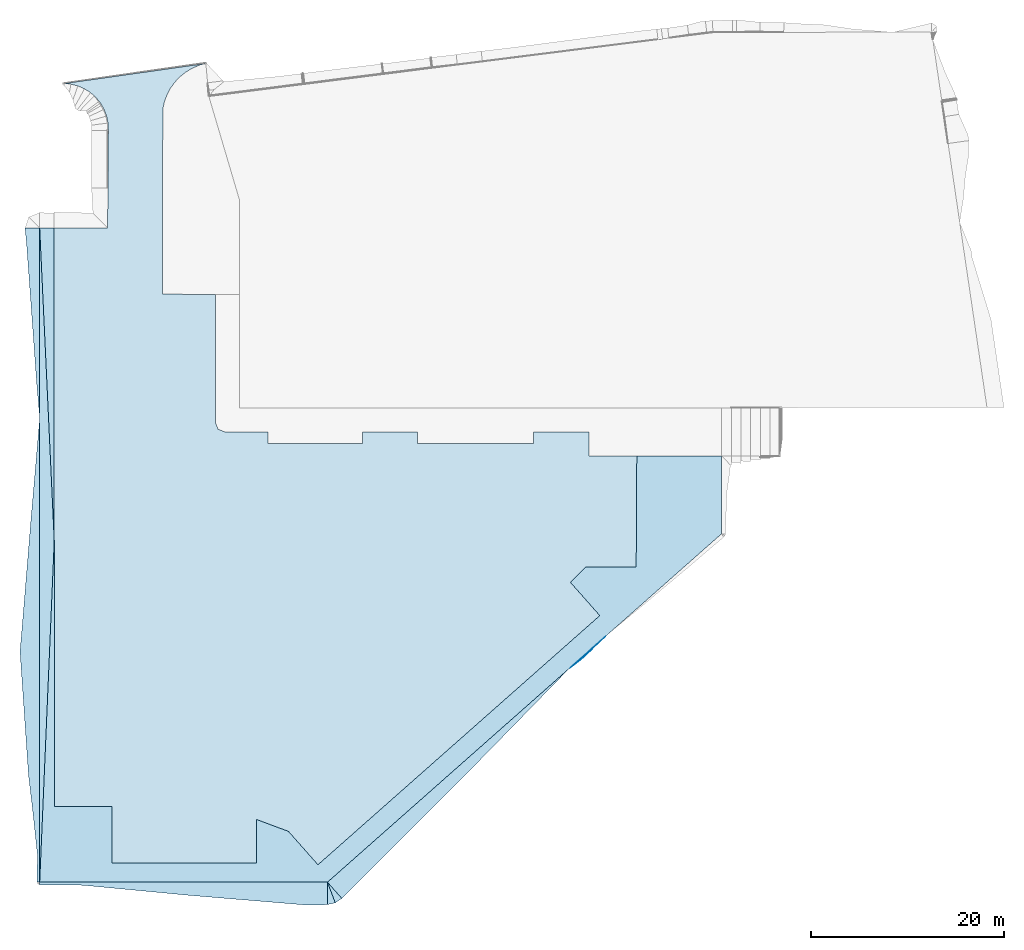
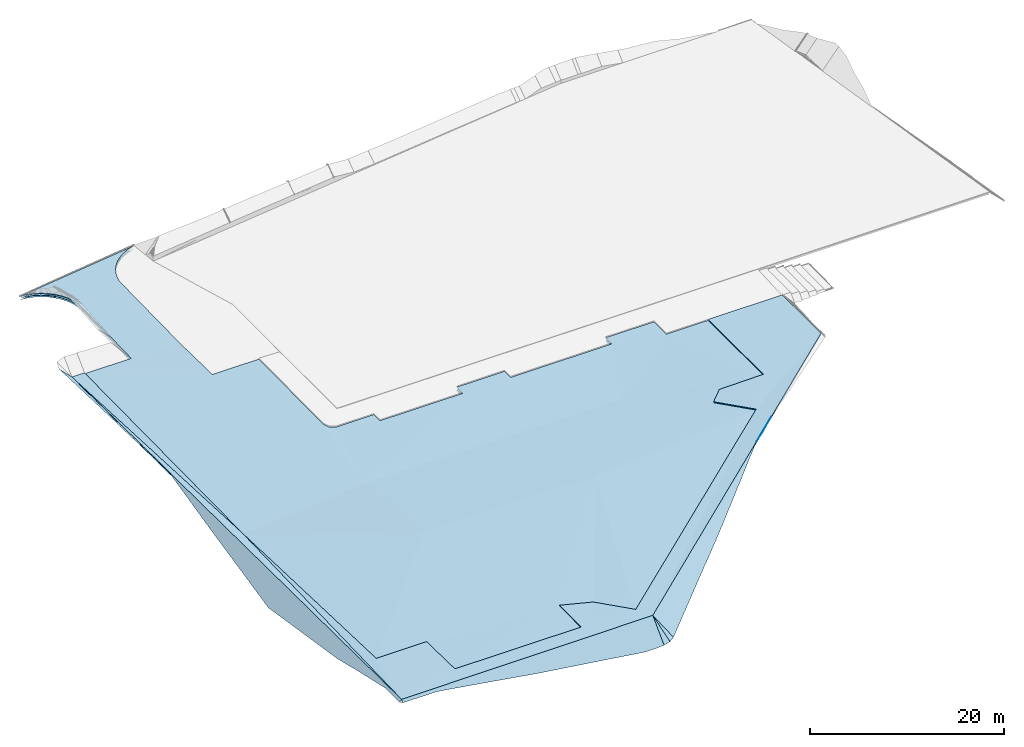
# One storey, part 1 of 14: 12 slabs.
"""IFC2X3 building model written with IfcOpenShell, lengths in metres."""

from ifc_helpers import new_model, si_unit, origin, origin_with_axes, place, context, subcontext, project, spatial, faceted_brep, element, save


model = new_model("IFC2X3")

# Units and contexts
context_of_model = context(None, 3, world=origin_with_axes())
sub_context = subcontext(context_of_model, None, None, "MODEL_VIEW")
ifc_project = project(units=[si_unit("LENGTHUNIT", "METRE"), si_unit("AREAUNIT", "SQUARE_METRE"), si_unit("VOLUMEUNIT", "CUBIC_METRE"), si_unit("PLANEANGLEUNIT", "RADIAN"), si_unit("MASSUNIT", "GRAM", prefix="KILO")])

# Site, building, storey
site_placement = place(None, origin_with_axes())
site = spatial("IfcSite", under=ifc_project, at=site_placement, Name="Site.1", CompositionType="ELEMENT")
building_placement = place(site_placement, origin())
building = spatial("IfcBuilding", under=site, at=building_placement, Name="Building.1", CompositionType="ELEMENT")
storey_placement = place(building_placement, origin())
storey = spatial("IfcBuildingStorey", under=building, at=storey_placement, Name="VRD", CompositionType="ELEMENT")

# Slabs
slab_1_placement = place(storey_placement, origin())
element("IfcSlab", 1, at=slab_1_placement, inside=storey, Name="PJ FINI n°4 (Terre Végétale)", PredefinedType="USERDEFINED", context=sub_context, shape_type="Brep", body=[
    faceted_brep([(6.009514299, -51.825937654, 0.62), (-23.824534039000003, -51.825937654, 0.52), (-16.334534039, -49.825937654, 0.52), (6.009514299, -51.825937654, 0.42), (-23.824534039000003, -51.825937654, 0.32), (-16.334534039, -49.825937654, 0.32), (-22.314534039, -43.995937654, 0.4), (-22.314534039, -43.995937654, 0.2), (-22.314534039, -16.435937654, -0.58), (-22.314534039, -16.435937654, -0.78), (-16.334534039, -43.995937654, 0.4), (-16.334534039, -43.995937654, 0.2), (-23.824534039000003, 16.004062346, -0.13), (-23.824534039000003, 16.004062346, -0.33), (-1.334534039, -45.325937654, 0.52), (1.965465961, -46.555937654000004, 0.52), (-1.334534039, -49.825937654, 0.52), (-1.334534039, -45.325937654, 0.32), (1.965465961, -46.555937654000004, 0.32), (-1.334534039, -49.825937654, 0.32), (5.025465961, -50.015937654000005, 0.62), (5.025465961, -50.015937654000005, 0.42), (-22.324534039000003, 16.004062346, -0.13), (-22.324534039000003, 16.004062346, -0.33), (32.776124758, -19.145097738, -0.200026), (34.245465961, -24.185937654, -0.13), (31.185465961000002, -20.725937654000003, -0.23), (32.776124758, -19.145097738, -0.400026), (34.245465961, -24.185937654, -0.33), (31.185465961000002, -20.725937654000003, -0.43), (38.015401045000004, -19.145097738, -0.13), (38.015401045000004, -19.145097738, -0.33), (38.079742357, -7.649449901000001, -0.23), (46.836556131, -15.736177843, -0.13), (38.079742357, -7.649449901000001, -0.43), (46.836556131, -15.736177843, -0.33), (46.881781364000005, -7.655936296, -0.23), (46.881781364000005, -7.655936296, -0.43)], [[[0, 1, 2]], [[3, 4, 5]], [[2, 1, 6]], [[5, 4, 7]], [[6, 1, 8]], [[7, 4, 9]], [[2, 6, 10]], [[5, 7, 11]], [[12, 13, 4, 1]], [[1, 12, 8]], [[4, 13, 9]], [[14, 15, 16]], [[17, 18, 19]], [[20, 16, 15]], [[21, 19, 18]], [[16, 20, 0]], [[19, 21, 3]], [[0, 2, 16]], [[3, 5, 19]], [[22, 8, 12]], [[23, 9, 13]], [[24, 25, 26]], [[27, 28, 29]], [[30, 25, 24]], [[31, 28, 27]], [[32, 33, 30]], [[34, 35, 31]], [[0, 20, 25]], [[3, 21, 28]], [[33, 32, 36]], [[35, 34, 37]], [[30, 33, 25]], [[31, 35, 28]], [[0, 3, 35, 33]], [[33, 0, 25]], [[35, 3, 28]]], orient=[[True], [False], [True], [False], [True], [False], [True], [False], [True], [True], [False], [True], [False], [True], [False], [True], [False], [True], [False], [True], [False], [True], [False], [True], [False], [True], [False], [True], [False], [True], [False], [True], [False], [True], [True], [False]]),
])
slab_2_placement = place(storey_placement, origin())
element("IfcSlab", 2, at=slab_2_placement, inside=storey, Name="PJ FINI n°4", PredefinedType="USERDEFINED", context=sub_context, shape_type="Brep", body=[
    faceted_brep([(6.009514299, -51.825937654, 0.62), (-23.824534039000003, -51.825937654, 0.52), (-16.334534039, -49.825937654, 0.52), (-22.314534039, -43.995937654, 0.4), (-22.314534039, -16.435937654, -0.58), (-16.334534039, -43.995937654, 0.4), (-23.824534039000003, 16.004062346, -0.13), (-1.334534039, -45.325937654, 0.52), (1.965465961, -46.555937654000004, 0.52), (-1.334534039, -49.825937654, 0.52), (5.025465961, -50.015937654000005, 0.62), (-22.324534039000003, 16.004062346, -0.13), (32.776124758, -19.145097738, -0.200026), (34.245465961, -24.185937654, -0.13), (31.185465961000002, -20.725937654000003, -0.23), (38.015401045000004, -19.145097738, -0.13), (38.079742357, -7.649449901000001, -0.23), (46.836556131, -15.736177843, -0.13), (46.881781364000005, -7.655936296, -0.23)], [[[0, 1, 2]], [[2, 1, 3]], [[3, 1, 4]], [[2, 3, 5]], [[1, 6, 4]], [[7, 8, 9]], [[10, 9, 8]], [[9, 10, 0]], [[0, 2, 9]], [[11, 4, 6]], [[12, 13, 14]], [[15, 13, 12]], [[16, 17, 15]], [[0, 10, 13]], [[17, 16, 18]], [[15, 17, 13]], [[17, 0, 13]]]),
])
slab_3_placement = place(storey_placement, origin())
element("IfcSlab", 3, at=slab_3_placement, inside=storey, Name="PJ FINI n°2 (Enrobés)", PredefinedType="USERDEFINED", context=sub_context, shape_type="Brep", body=[
    faceted_brep([(-6.758434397, -26.892042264, 0.562221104), (-22.314534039, -43.995937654, 0.28), (-22.314534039, -16.435937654, -0.7), (-6.758434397, -26.892042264, 0.502221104), (-22.314534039, -43.995937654, 0.22), (-22.314534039, -16.435937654, -0.76), (-5.615808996, -4.155500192, -0.2), (-5.323119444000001, -4.863253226, -0.25), (-6.946675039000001, -15.037949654, -0.545686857), (-5.615808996, -4.155500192, -0.26), (-5.323119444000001, -4.863253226, -0.31), (-6.946675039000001, -15.037949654, -0.605686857), (23.557774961, -14.875221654, -0.8), (31.185465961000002, -20.725937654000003, -0.35), (13.467860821, -27.187748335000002, 0.5), (23.557774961, -14.875221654, -0.86), (31.185465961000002, -20.725937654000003, -0.41), (13.467860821, -27.187748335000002, 0.44), (34.245465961, -24.185937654, -0.25), (34.245465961, -24.185937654, -0.31), (-1.334534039, -45.325937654, 0.5), (-16.334534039, -49.825937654, 0.4), (-16.334534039, -43.995937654, 0.28), (-1.334534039, -45.325937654, 0.44), (-16.334534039, -49.825937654, 0.34), (-16.334534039, -43.995937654, 0.22), (-11.097854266, 9.133948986, -0.1), (-11.097854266, 9.133948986, -0.16), (9.665465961, -6.364934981, -0.35), (-0.158671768, -6.355126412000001, -0.35), (9.665465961, -6.364934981, -0.41), (-0.158671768, -6.355126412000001, -0.41), (-4.615534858, -5.156349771, -0.3), (-4.615534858, -5.156349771, -0.36), (15.362768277, -6.350865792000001, -0.35), (15.362768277, -6.350865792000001, -0.41), (-5.572275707, 9.122153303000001, -0.1), (-5.572275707, 9.122153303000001, -0.16), (-1.334534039, -49.825937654, 0.4), (-1.334534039, -49.825937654, 0.34), (27.362441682, -6.347571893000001, -0.35), (33.119516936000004, -7.645794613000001, -0.35), (27.362441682, -6.347571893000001, -0.41), (33.119516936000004, -7.645794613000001, -0.41), (-0.159001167, -5.155126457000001, -0.3), (-0.159001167, -5.155126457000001, -0.36), (9.665133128, -5.152429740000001, -0.3), (15.362438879, -5.150865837, -0.3), (9.665133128, -5.152429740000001, -0.36), (15.362438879, -5.150865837, -0.36), (1.965465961, -46.555937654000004, 0.4), (1.965465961, -46.555937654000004, 0.34), (-22.324534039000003, 16.004062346, -0.25), (-16.781392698, 15.983917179, -0.25), (-22.324534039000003, 16.004062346, -0.31), (-16.781392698, 15.983917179, -0.31), (-11.059491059, 28.315552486, -0.05), (-16.892353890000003, 27.606789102, -0.03), (-17.155672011, 28.304106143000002, -0.02), (-11.059491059, 28.315552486, -0.11), (-16.892353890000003, 27.606789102, -0.09), (-17.155672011, 28.304106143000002, -0.08), (-16.743708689, 26.876383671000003, -0.04), (-16.743708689, 26.876383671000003, -0.1), (-10.895627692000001, 29.066939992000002, -0.046471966), (-17.526911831, 28.950456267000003, -0.01), (-10.895627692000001, 29.066939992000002, -0.106471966), (-17.526911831, 28.950456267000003, -0.07), (-21.329879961, 30.971171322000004, 0.05), (-7.339867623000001, 32.846172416, -0.021775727), (-20.587365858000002, 30.905900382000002, 0.04), (-21.329879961, 30.971171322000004, -0.01), (-7.339867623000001, 32.846172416, -0.081775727), (-20.587365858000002, 30.905900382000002, -0.02), (-18.552560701, 30.025700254, 0.01), (-19.180673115, 30.427025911, 0.02), (-9.299906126, 31.655909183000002, -0.03235983), (-18.552560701, 30.025700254, -0.05), (-19.180673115, 30.427025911, -0.04), (-9.299906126, 31.655909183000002, -0.09235983), (-19.864788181, 30.722955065, 0.03), (-8.04496591, 32.539136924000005, -0.025303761), (-19.864788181, 30.722955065, -0.03), (-8.04496591, 32.539136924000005, -0.085303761), (-8.702302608, 32.139959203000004, -0.028831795), (-8.702302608, 32.139959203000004, -0.088831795), (-17.996555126, 29.529267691, 0.0), (-10.632085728, 29.789421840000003, -0.042943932), (-17.996555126, 29.529267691, -0.06), (-10.632085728, 29.789421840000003, -0.102943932), (-16.713547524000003, 26.131616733, -0.05), (-16.713547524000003, 26.131616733, -0.11), (-11.084177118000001, 15.972522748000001, -0.25), (-11.084177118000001, 15.972522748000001, -0.31), (-10.273664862, 30.469839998, -0.039415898), (-10.273664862, 30.469839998, -0.099415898), (-9.826892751, 31.095802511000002, -0.035887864), (-9.826892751, 31.095802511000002, -0.095887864), (-6.599849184, 33.055473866, -0.018247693), (-6.599849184, 33.055473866, -0.078247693), (5.025465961, -50.015937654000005, 0.5), (5.025465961, -50.015937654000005, 0.44), (32.776124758, -19.145097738, -0.320026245), (32.776124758, -19.145097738, -0.380026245), (38.015401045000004, -19.145097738, -0.25), (38.015401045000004, -19.145097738, -0.31), (38.079742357, -7.649449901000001, -0.35), (38.079742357, -7.649449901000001, -0.41), (33.118830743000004, -5.145991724, -0.3), (27.362112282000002, -5.147571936, -0.3), (33.118830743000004, -5.145991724, -0.36), (27.362112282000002, -5.147571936, -0.36)], [[[0, 1, 2]], [[3, 4, 5]], [[6, 7, 8]], [[9, 10, 11]], [[12, 13, 14]], [[15, 16, 17]], [[18, 14, 13]], [[19, 17, 16]], [[20, 21, 22]], [[23, 24, 25]], [[26, 6, 2]], [[27, 9, 5]], [[28, 8, 29]], [[30, 11, 31]], [[8, 32, 29]], [[11, 33, 31]], [[34, 12, 28]], [[35, 15, 30]], [[12, 8, 28]], [[15, 11, 30]], [[1, 0, 22]], [[4, 3, 25]], [[6, 26, 36]], [[9, 27, 37]], [[22, 0, 20]], [[25, 3, 23]], [[21, 20, 38]], [[24, 23, 39]], [[40, 41, 12]], [[42, 43, 15]], [[0, 2, 8]], [[3, 5, 11]], [[14, 20, 0]], [[17, 23, 3]], [[8, 12, 14]], [[11, 15, 17]], [[29, 32, 44]], [[31, 33, 45]], [[46, 47, 34]], [[48, 49, 35]], [[40, 12, 34]], [[42, 15, 35]], [[34, 28, 46]], [[35, 30, 48]], [[14, 50, 20]], [[17, 51, 23]], [[8, 14, 0]], [[11, 17, 3]], [[26, 52, 53]], [[27, 54, 55]], [[56, 57, 58]], [[59, 60, 61]], [[57, 56, 62]], [[60, 59, 63]], [[64, 58, 65]], [[66, 61, 67]], [[68, 69, 70]], [[71, 72, 73]], [[74, 75, 76]], [[77, 78, 79]], [[80, 70, 81]], [[82, 73, 83]], [[84, 75, 80]], [[85, 78, 82]], [[86, 87, 65]], [[88, 89, 67]], [[90, 91, 55, 53]], [[53, 90, 92]], [[55, 91, 93]], [[26, 53, 92]], [[27, 55, 93]], [[56, 58, 64]], [[59, 61, 66]], [[65, 87, 64]], [[67, 89, 66]], [[87, 86, 94]], [[89, 88, 95]], [[96, 74, 76]], [[97, 77, 79]], [[96, 94, 74]], [[97, 95, 77]], [[80, 81, 84]], [[82, 83, 85]], [[68, 98, 69]], [[71, 99, 72]], [[70, 69, 81]], [[73, 72, 83]], [[76, 75, 84]], [[79, 78, 85]], [[62, 56, 90]], [[63, 59, 91]], [[52, 26, 2]], [[54, 27, 5]], [[32, 8, 7]], [[33, 11, 10]], [[50, 14, 100]], [[51, 17, 101]], [[6, 8, 2]], [[9, 11, 5]], [[102, 13, 12]], [[103, 16, 15]], [[12, 104, 102]], [[15, 105, 103]], [[104, 41, 106]], [[105, 43, 107]], [[108, 40, 109]], [[110, 42, 111]], [[40, 108, 41]], [[42, 110, 43]], [[104, 12, 41]], [[105, 15, 43]], [[100, 14, 18]], [[101, 17, 19]], [[56, 92, 90]], [[59, 93, 91]], [[74, 77, 88, 86]], [[86, 74, 94]], [[88, 77, 95]]], orient=[[True], [False], [True], [False], [True], [False], [True], [False], [True], [False], [True], [False], [True], [False], [True], [False], [True], [False], [True], [False], [True], [False], [True], [False], [True], [False], [True], [False], [True], [False], [True], [False], [True], [False], [True], [False], [True], [False], [True], [False], [True], [False], [True], [False], [True], [False], [True], [False], [True], [False], [True], [False], [True], [False], [True], [False], [True], [False], [True], [False], [True], [False], [True], [False], [True], [False], [True], [True], [False], [True], [False], [True], [False], [True], [False], [True], [False], [True], [False], [True], [False], [True], [False], [True], [False], [True], [False], [True], [False], [True], [False], [True], [False], [True], [False], [True], [False], [True], [False], [True], [False], [True], [False], [True], [False], [True], [False], [True], [False], [True], [False], [True], [False], [True], [False], [True], [True], [False]]),
])
slab_4_placement = place(storey_placement, origin())
element("IfcSlab", 4, at=slab_4_placement, inside=storey, Name="PJ FINI n°2 (GB 0/14)", PredefinedType="USERDEFINED", context=sub_context, shape_type="Brep", body=[
    faceted_brep([(-6.758434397, -26.892042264, 0.502221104), (-22.314534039, -43.995937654, 0.22), (-22.314534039, -16.435937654, -0.76), (-6.758434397, -26.892042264, 0.302221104), (-22.314534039, -43.995937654, 0.02), (-22.314534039, -16.435937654, -0.96), (-5.615808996, -4.155500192, -0.26), (-5.323119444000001, -4.863253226, -0.31), (-6.946675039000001, -15.037949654, -0.605686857), (-5.615808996, -4.155500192, -0.46), (-5.323119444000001, -4.863253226, -0.51), (-6.946675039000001, -15.037949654, -0.805686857), (23.557774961, -14.875221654, -0.86), (31.185465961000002, -20.725937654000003, -0.41), (13.467860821, -27.187748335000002, 0.44), (23.557774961, -14.875221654, -1.06), (31.185465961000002, -20.725937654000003, -0.61), (13.467860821, -27.187748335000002, 0.24), (34.245465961, -24.185937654, -0.31), (34.245465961, -24.185937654, -0.51), (-1.334534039, -45.325937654, 0.44), (-16.334534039, -49.825937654, 0.34), (-16.334534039, -43.995937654, 0.22), (-1.334534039, -45.325937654, 0.24), (-16.334534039, -49.825937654, 0.14), (-16.334534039, -43.995937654, 0.02), (-11.097854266, 9.133948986, -0.16), (-11.097854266, 9.133948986, -0.36), (9.665465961, -6.364934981, -0.41), (-0.158671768, -6.355126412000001, -0.41), (9.665465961, -6.364934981, -0.61), (-0.158671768, -6.355126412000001, -0.61), (-4.615534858, -5.156349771, -0.36), (-4.615534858, -5.156349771, -0.56), (15.362768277, -6.350865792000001, -0.41), (15.362768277, -6.350865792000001, -0.61), (-5.572275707, 9.122153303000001, -0.16), (-5.572275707, 9.122153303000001, -0.36), (-1.334534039, -49.825937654, 0.34), (-1.334534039, -49.825937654, 0.14), (27.362441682, -6.347571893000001, -0.41), (33.119516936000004, -7.645794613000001, -0.41), (27.362441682, -6.347571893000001, -0.61), (33.119516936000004, -7.645794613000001, -0.61), (-0.159001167, -5.155126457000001, -0.36), (-0.159001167, -5.155126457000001, -0.56), (9.665133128, -5.152429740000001, -0.36), (15.362438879, -5.150865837, -0.36), (9.665133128, -5.152429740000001, -0.56), (15.362438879, -5.150865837, -0.56), (1.965465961, -46.555937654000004, 0.34), (1.965465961, -46.555937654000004, 0.14), (-22.324534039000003, 16.004062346, -0.31), (-16.781392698, 15.983917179, -0.31), (-22.324534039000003, 16.004062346, -0.51), (-16.781392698, 15.983917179, -0.51), (-11.059491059, 28.315552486, -0.11), (-16.892353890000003, 27.606789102, -0.09), (-17.155672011, 28.304106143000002, -0.08), (-11.059491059, 28.315552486, -0.31), (-16.892353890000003, 27.606789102, -0.29), (-17.155672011, 28.304106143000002, -0.28), (-16.743708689, 26.876383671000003, -0.1), (-16.743708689, 26.876383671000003, -0.3), (-10.895627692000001, 29.066939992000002, -0.106471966), (-17.526911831, 28.950456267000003, -0.07), (-10.895627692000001, 29.066939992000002, -0.306471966), (-17.526911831, 28.950456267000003, -0.27), (-21.329879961, 30.971171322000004, -0.01), (-7.339867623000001, 32.846172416, -0.081775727), (-20.587365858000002, 30.905900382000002, -0.02), (-21.329879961, 30.971171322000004, -0.21), (-7.339867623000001, 32.846172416, -0.281775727), (-20.587365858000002, 30.905900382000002, -0.22), (-18.552560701, 30.025700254, -0.05), (-19.180673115, 30.427025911, -0.04), (-9.299906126, 31.655909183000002, -0.09235983), (-18.552560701, 30.025700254, -0.25), (-19.180673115, 30.427025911, -0.24), (-9.299906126, 31.655909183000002, -0.29235983), (-19.864788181, 30.722955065, -0.03), (-8.04496591, 32.539136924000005, -0.085303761), (-19.864788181, 30.722955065, -0.23), (-8.04496591, 32.539136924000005, -0.285303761), (-8.702302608, 32.139959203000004, -0.088831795), (-8.702302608, 32.139959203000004, -0.288831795), (-17.996555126, 29.529267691, -0.06), (-10.632085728, 29.789421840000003, -0.102943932), (-17.996555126, 29.529267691, -0.26), (-10.632085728, 29.789421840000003, -0.302943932), (-16.713547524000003, 26.131616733, -0.11), (-16.713547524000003, 26.131616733, -0.31), (-11.084177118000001, 15.972522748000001, -0.31), (-11.084177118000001, 15.972522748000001, -0.51), (-10.273664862, 30.469839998, -0.099415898), (-10.273664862, 30.469839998, -0.299415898), (-9.826892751, 31.095802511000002, -0.095887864), (-9.826892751, 31.095802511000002, -0.295887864), (-6.599849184, 33.055473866, -0.078247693), (-6.599849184, 33.055473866, -0.278247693), (5.025465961, -50.015937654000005, 0.44), (5.025465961, -50.015937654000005, 0.24), (32.776124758, -19.145097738, -0.380026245), (32.776124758, -19.145097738, -0.580026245), (38.015401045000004, -19.145097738, -0.31), (38.015401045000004, -19.145097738, -0.51), (38.079742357, -7.649449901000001, -0.41), (38.079742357, -7.649449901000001, -0.61), (33.118830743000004, -5.145991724, -0.36), (27.362112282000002, -5.147571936, -0.36), (33.118830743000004, -5.145991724, -0.56), (27.362112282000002, -5.147571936, -0.56)], [[[0, 1, 2]], [[3, 4, 5]], [[6, 7, 8]], [[9, 10, 11]], [[12, 13, 14]], [[15, 16, 17]], [[18, 14, 13]], [[19, 17, 16]], [[20, 21, 22]], [[23, 24, 25]], [[26, 6, 2]], [[27, 9, 5]], [[28, 8, 29]], [[30, 11, 31]], [[8, 32, 29]], [[11, 33, 31]], [[34, 12, 28]], [[35, 15, 30]], [[12, 8, 28]], [[15, 11, 30]], [[1, 0, 22]], [[4, 3, 25]], [[6, 26, 36]], [[9, 27, 37]], [[22, 0, 20]], [[25, 3, 23]], [[21, 20, 38]], [[24, 23, 39]], [[40, 41, 12]], [[42, 43, 15]], [[0, 2, 8]], [[3, 5, 11]], [[14, 20, 0]], [[17, 23, 3]], [[8, 12, 14]], [[11, 15, 17]], [[29, 32, 44]], [[31, 33, 45]], [[46, 47, 34]], [[48, 49, 35]], [[40, 12, 34]], [[42, 15, 35]], [[34, 28, 46]], [[35, 30, 48]], [[14, 50, 20]], [[17, 51, 23]], [[8, 14, 0]], [[11, 17, 3]], [[26, 52, 53]], [[27, 54, 55]], [[56, 57, 58]], [[59, 60, 61]], [[57, 56, 62]], [[60, 59, 63]], [[64, 58, 65]], [[66, 61, 67]], [[68, 69, 70]], [[71, 72, 73]], [[74, 75, 76]], [[77, 78, 79]], [[80, 70, 81]], [[82, 73, 83]], [[84, 75, 80]], [[85, 78, 82]], [[86, 87, 65]], [[88, 89, 67]], [[90, 91, 55, 53]], [[53, 90, 92]], [[55, 91, 93]], [[26, 53, 92]], [[27, 55, 93]], [[56, 58, 64]], [[59, 61, 66]], [[65, 87, 64]], [[67, 89, 66]], [[87, 86, 94]], [[89, 88, 95]], [[96, 74, 76]], [[97, 77, 79]], [[96, 94, 74]], [[97, 95, 77]], [[80, 81, 84]], [[82, 83, 85]], [[68, 98, 69]], [[71, 99, 72]], [[70, 69, 81]], [[73, 72, 83]], [[76, 75, 84]], [[79, 78, 85]], [[62, 56, 90]], [[63, 59, 91]], [[52, 26, 2]], [[54, 27, 5]], [[32, 8, 7]], [[33, 11, 10]], [[50, 14, 100]], [[51, 17, 101]], [[6, 8, 2]], [[9, 11, 5]], [[102, 13, 12]], [[103, 16, 15]], [[12, 104, 102]], [[15, 105, 103]], [[104, 41, 106]], [[105, 43, 107]], [[108, 40, 109]], [[110, 42, 111]], [[40, 108, 41]], [[42, 110, 43]], [[104, 12, 41]], [[105, 15, 43]], [[100, 14, 18]], [[101, 17, 19]], [[56, 92, 90]], [[59, 93, 91]], [[74, 77, 88, 86]], [[86, 74, 94]], [[88, 77, 95]]], orient=[[True], [False], [True], [False], [True], [False], [True], [False], [True], [False], [True], [False], [True], [False], [True], [False], [True], [False], [True], [False], [True], [False], [True], [False], [True], [False], [True], [False], [True], [False], [True], [False], [True], [False], [True], [False], [True], [False], [True], [False], [True], [False], [True], [False], [True], [False], [True], [False], [True], [False], [True], [False], [True], [False], [True], [False], [True], [False], [True], [False], [True], [False], [True], [False], [True], [False], [True], [True], [False], [True], [False], [True], [False], [True], [False], [True], [False], [True], [False], [True], [False], [True], [False], [True], [False], [True], [False], [True], [False], [True], [False], [True], [False], [True], [False], [True], [False], [True], [False], [True], [False], [True], [False], [True], [False], [True], [False], [True], [False], [True], [False], [True], [False], [True], [False], [True], [True], [False]]),
])
slab_5_placement = place(storey_placement, origin())
element("IfcSlab", 5, at=slab_5_placement, inside=storey, Name="PJ FINI n°2 (GNT 0/31.5)", PredefinedType="USERDEFINED", context=sub_context, shape_type="Brep", body=[
    faceted_brep([(-6.758434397, -26.892042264, 0.302221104), (-22.314534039, -43.995937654, 0.02), (-22.314534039, -16.435937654, -0.96), (-6.758434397, -26.892042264, 0.102221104), (-22.314534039, -43.995937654, -0.18), (-22.314534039, -16.435937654, -1.16), (-5.615808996, -4.155500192, -0.46), (-5.323119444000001, -4.863253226, -0.51), (-6.946675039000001, -15.037949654, -0.805686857), (-5.615808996, -4.155500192, -0.66), (-5.323119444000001, -4.863253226, -0.71), (-6.946675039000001, -15.037949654, -1.005686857), (23.557774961, -14.875221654, -1.06), (31.185465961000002, -20.725937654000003, -0.61), (13.467860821, -27.187748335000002, 0.24), (23.557774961, -14.875221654, -1.26), (31.185465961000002, -20.725937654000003, -0.81), (13.467860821, -27.187748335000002, 0.04), (34.245465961, -24.185937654, -0.51), (34.245465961, -24.185937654, -0.71), (-1.334534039, -45.325937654, 0.24), (-16.334534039, -49.825937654, 0.14), (-16.334534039, -43.995937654, 0.02), (-1.334534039, -45.325937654, 0.04), (-16.334534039, -49.825937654, -0.06), (-16.334534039, -43.995937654, -0.18), (-11.097854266, 9.133948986, -0.36), (-11.097854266, 9.133948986, -0.56), (9.665465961, -6.364934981, -0.61), (-0.158671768, -6.355126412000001, -0.61), (9.665465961, -6.364934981, -0.81), (-0.158671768, -6.355126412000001, -0.81), (-4.615534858, -5.156349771, -0.56), (-4.615534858, -5.156349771, -0.76), (15.362768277, -6.350865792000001, -0.61), (15.362768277, -6.350865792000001, -0.81), (-5.572275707, 9.122153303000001, -0.36), (-5.572275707, 9.122153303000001, -0.56), (-1.334534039, -49.825937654, 0.14), (-1.334534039, -49.825937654, -0.06), (27.362441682, -6.347571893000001, -0.61), (33.119516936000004, -7.645794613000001, -0.61), (27.362441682, -6.347571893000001, -0.81), (33.119516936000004, -7.645794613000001, -0.81), (-0.159001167, -5.155126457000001, -0.56), (-0.159001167, -5.155126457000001, -0.76), (9.665133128, -5.152429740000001, -0.56), (15.362438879, -5.150865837, -0.56), (9.665133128, -5.152429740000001, -0.76), (15.362438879, -5.150865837, -0.76), (1.965465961, -46.555937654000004, 0.14), (1.965465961, -46.555937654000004, -0.06), (-22.324534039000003, 16.004062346, -0.51), (-16.781392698, 15.983917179, -0.51), (-22.324534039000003, 16.004062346, -0.71), (-16.781392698, 15.983917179, -0.71), (-11.059491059, 28.315552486, -0.31), (-16.892353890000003, 27.606789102, -0.29), (-17.155672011, 28.304106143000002, -0.28), (-11.059491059, 28.315552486, -0.51), (-16.892353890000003, 27.606789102, -0.49), (-17.155672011, 28.304106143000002, -0.48), (-16.743708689, 26.876383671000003, -0.3), (-16.743708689, 26.876383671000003, -0.5), (-10.895627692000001, 29.066939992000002, -0.306471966), (-17.526911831, 28.950456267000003, -0.27), (-10.895627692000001, 29.066939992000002, -0.506471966), (-17.526911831, 28.950456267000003, -0.47), (-21.329879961, 30.971171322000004, -0.21), (-7.339867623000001, 32.846172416, -0.281775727), (-20.587365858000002, 30.905900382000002, -0.22), (-21.329879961, 30.971171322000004, -0.41), (-7.339867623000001, 32.846172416, -0.481775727), (-20.587365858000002, 30.905900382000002, -0.42), (-18.552560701, 30.025700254, -0.25), (-19.180673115, 30.427025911, -0.24), (-9.299906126, 31.655909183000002, -0.29235983), (-18.552560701, 30.025700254, -0.45), (-19.180673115, 30.427025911, -0.44), (-9.299906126, 31.655909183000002, -0.49235983), (-19.864788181, 30.722955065, -0.23), (-8.04496591, 32.539136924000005, -0.285303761), (-19.864788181, 30.722955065, -0.43), (-8.04496591, 32.539136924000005, -0.485303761), (-8.702302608, 32.139959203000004, -0.288831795), (-8.702302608, 32.139959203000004, -0.488831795), (-17.996555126, 29.529267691, -0.26), (-10.632085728, 29.789421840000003, -0.302943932), (-17.996555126, 29.529267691, -0.46), (-10.632085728, 29.789421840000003, -0.502943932), (-16.713547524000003, 26.131616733, -0.31), (-16.713547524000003, 26.131616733, -0.51), (-11.084177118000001, 15.972522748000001, -0.51), (-11.084177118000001, 15.972522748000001, -0.71), (-10.273664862, 30.469839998, -0.299415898), (-10.273664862, 30.469839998, -0.499415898), (-9.826892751, 31.095802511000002, -0.295887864), (-9.826892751, 31.095802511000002, -0.495887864), (-6.599849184, 33.055473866, -0.278247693), (-6.599849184, 33.055473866, -0.478247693), (5.025465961, -50.015937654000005, 0.24), (5.025465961, -50.015937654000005, 0.04), (32.776124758, -19.145097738, -0.580026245), (32.776124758, -19.145097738, -0.780026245), (38.015401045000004, -19.145097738, -0.51), (38.015401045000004, -19.145097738, -0.71), (38.079742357, -7.649449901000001, -0.61), (38.079742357, -7.649449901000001, -0.81), (33.118830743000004, -5.145991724, -0.56), (27.362112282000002, -5.147571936, -0.56), (33.118830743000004, -5.145991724, -0.76), (27.362112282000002, -5.147571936, -0.76)], [[[0, 1, 2]], [[3, 4, 5]], [[6, 7, 8]], [[9, 10, 11]], [[12, 13, 14]], [[15, 16, 17]], [[18, 14, 13]], [[19, 17, 16]], [[20, 21, 22]], [[23, 24, 25]], [[26, 6, 2]], [[27, 9, 5]], [[28, 8, 29]], [[30, 11, 31]], [[8, 32, 29]], [[11, 33, 31]], [[34, 12, 28]], [[35, 15, 30]], [[12, 8, 28]], [[15, 11, 30]], [[1, 0, 22]], [[4, 3, 25]], [[6, 26, 36]], [[9, 27, 37]], [[22, 0, 20]], [[25, 3, 23]], [[21, 20, 38]], [[24, 23, 39]], [[40, 41, 12]], [[42, 43, 15]], [[0, 2, 8]], [[3, 5, 11]], [[14, 20, 0]], [[17, 23, 3]], [[8, 12, 14]], [[11, 15, 17]], [[29, 32, 44]], [[31, 33, 45]], [[46, 47, 34]], [[48, 49, 35]], [[40, 12, 34]], [[42, 15, 35]], [[34, 28, 46]], [[35, 30, 48]], [[14, 50, 20]], [[17, 51, 23]], [[8, 14, 0]], [[11, 17, 3]], [[26, 52, 53]], [[27, 54, 55]], [[56, 57, 58]], [[59, 60, 61]], [[57, 56, 62]], [[60, 59, 63]], [[64, 58, 65]], [[66, 61, 67]], [[68, 69, 70]], [[71, 72, 73]], [[74, 75, 76]], [[77, 78, 79]], [[80, 70, 81]], [[82, 73, 83]], [[84, 75, 80]], [[85, 78, 82]], [[86, 87, 65]], [[88, 89, 67]], [[90, 91, 55, 53]], [[53, 90, 92]], [[55, 91, 93]], [[26, 53, 92]], [[27, 55, 93]], [[56, 58, 64]], [[59, 61, 66]], [[65, 87, 64]], [[67, 89, 66]], [[87, 86, 94]], [[89, 88, 95]], [[96, 74, 76]], [[97, 77, 79]], [[96, 94, 74]], [[97, 95, 77]], [[80, 81, 84]], [[82, 83, 85]], [[68, 98, 69]], [[71, 99, 72]], [[70, 69, 81]], [[73, 72, 83]], [[76, 75, 84]], [[79, 78, 85]], [[62, 56, 90]], [[63, 59, 91]], [[52, 26, 2]], [[54, 27, 5]], [[32, 8, 7]], [[33, 11, 10]], [[50, 14, 100]], [[51, 17, 101]], [[6, 8, 2]], [[9, 11, 5]], [[102, 13, 12]], [[103, 16, 15]], [[12, 104, 102]], [[15, 105, 103]], [[104, 41, 106]], [[105, 43, 107]], [[108, 40, 109]], [[110, 42, 111]], [[40, 108, 41]], [[42, 110, 43]], [[104, 12, 41]], [[105, 15, 43]], [[100, 14, 18]], [[101, 17, 19]], [[56, 92, 90]], [[59, 93, 91]], [[74, 77, 88, 86]], [[86, 74, 94]], [[88, 77, 95]]], orient=[[True], [False], [True], [False], [True], [False], [True], [False], [True], [False], [True], [False], [True], [False], [True], [False], [True], [False], [True], [False], [True], [False], [True], [False], [True], [False], [True], [False], [True], [False], [True], [False], [True], [False], [True], [False], [True], [False], [True], [False], [True], [False], [True], [False], [True], [False], [True], [False], [True], [False], [True], [False], [True], [False], [True], [False], [True], [False], [True], [False], [True], [False], [True], [False], [True], [False], [True], [True], [False], [True], [False], [True], [False], [True], [False], [True], [False], [True], [False], [True], [False], [True], [False], [True], [False], [True], [False], [True], [False], [True], [False], [True], [False], [True], [False], [True], [False], [True], [False], [True], [False], [True], [False], [True], [False], [True], [False], [True], [False], [True], [False], [True], [False], [True], [False], [True], [True], [False]]),
])
slab_6_placement = place(storey_placement, origin())
element("IfcSlab", 6, at=slab_6_placement, inside=storey, Name="PJ FINI n°31", PredefinedType="USERDEFINED", context=sub_context, shape_type="Brep", body=[
    faceted_brep([(-19.932856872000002, -52.108981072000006, 0.25), (-21.067233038, -52.10517878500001, 0.25), (-23.824534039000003, -51.825937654, 0.519999), (-12.129683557, -52.825975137, -0.440838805), (-18.908003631, -52.18513896, 0.177277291), (6.009514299, -51.825937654, 0.619999), (-22.585226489, -52.100090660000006, 0.25), (3.723483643, -54.18827416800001, -1.75), (-7.760709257, -53.23573793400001, -0.835957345), (-8.422886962, -53.181332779, -0.783771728), (6.009514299, -54.152039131, -1.706102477), (4.912038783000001, -54.192258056, -1.75), (-8.816458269, -53.14624185, -0.75), (-23.824534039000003, -52.095936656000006, 0.25)], [[[0, 1, 2]], [[3, 4, 5]], [[1, 6, 2]], [[7, 8, 5]], [[5, 0, 2]], [[5, 8, 9]], [[5, 10, 11]], [[12, 5, 9]], [[7, 5, 11]], [[12, 3, 5]], [[5, 4, 0]], [[6, 13, 2]]]),
])
slab_7_placement = place(storey_placement, origin())
element("IfcSlab", 7, at=slab_7_placement, inside=storey, Name="PJ FINI n°36", PredefinedType="USERDEFINED", context=sub_context, shape_type="Brep", body=[
    faceted_brep([(-23.824534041, -3.701037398, 0.058828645), (-24.067036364, -48.95655405, 0.25), (-24.213911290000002, -8.239944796, -0.287053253), (-24.734340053, -14.238414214, -0.75), (-24.094533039, -51.825937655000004, 0.25), (-23.824534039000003, -51.825937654, 0.519999), (-24.562558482, -44.29720325, -0.290171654), (-25.469064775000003, -23.21868573, -1.398668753), (-24.988093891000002, -40.718603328, -0.75), (-25.585438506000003, -31.990994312, -1.430979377), (-25.865393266, -27.914321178, -1.75)], [[[0, 1, 2]], [[1, 3, 2]], [[4, 1, 5]], [[6, 7, 3]], [[7, 8, 9]], [[1, 6, 3]], [[1, 0, 5]], [[8, 7, 6]], [[10, 7, 9]]]),
])
slab_8_placement = place(storey_placement, origin())
element("IfcSlab", 8, at=slab_8_placement, inside=storey, Name="PJ FINI n°51", PredefinedType="USERDEFINED", context=sub_context, shape_type="Brep", body=[
    faceted_brep([(6.009514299, -51.825937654, 0.619999), (15.724356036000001, -45.277917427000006, -1.068002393), (7.499256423, -53.51122912, -1.629342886), (31.12831732, -29.621743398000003, 0.158561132), (25.099183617, -35.807946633, -0.364706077), (20.547591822, -40.464958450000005, -0.75), (17.704369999, -43.315510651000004, -0.947366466)], [[[0, 1, 2]], [[0, 3, 4]], [[0, 5, 6]], [[0, 6, 1]], [[0, 4, 5]]]),
])
slab_9_placement = place(storey_placement, origin())
element("IfcSlab", 9, at=slab_9_placement, inside=storey, Name="PJ FINI n°56", PredefinedType="USERDEFINED", context=sub_context, shape_type="Brep", body=[
    faceted_brep([(6.009514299, -51.825937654, 0.619999), (6.820074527, -53.966749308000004, -1.669123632), (6.009514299, -54.152039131, -1.706102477)], [[[0, 1, 2]]]),
])
slab_10_placement = place(storey_placement, origin())
element("IfcSlab", 10, at=slab_10_placement, inside=storey, Name="PJ FINI n°60", PredefinedType="USERDEFINED", context=sub_context, shape_type="Brep", body=[
    faceted_brep([(-23.824534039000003, 16.004062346, -0.130001), (-24.039010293, -1.269081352, 0.25), (-24.152621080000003, 0.057504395, 0.350898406), (-23.824534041, -3.701037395, 0.058829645), (-24.437670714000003, 4.05180543, 0.59767153), (-25.189047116, 14.387838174, 1.25), (-25.345557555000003, 16.004062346, 1.391022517)], [[[0, 1, 2]], [[0, 3, 1]], [[0, 2, 4]], [[0, 5, 6]], [[5, 0, 4]]]),
])
slab_11_placement = place(storey_placement, origin())
element("IfcSlab", 11, at=slab_11_placement, inside=storey, Name="PJ FINI n°82", PredefinedType="USERDEFINED", context=sub_context, shape_type="Brep", body=[
    faceted_brep([(34.866858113, -26.316996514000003, 0.089885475), (32.313893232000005, -28.723026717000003, 0.25), (31.128327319, -29.621734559, 0.158561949)], [[[0, 1, 2]]]),
])
slab_12_placement = place(storey_placement, origin())
element("IfcSlab", 12, at=slab_12_placement, inside=storey, Name="PJ FINI n°96", PredefinedType="USERDEFINED", context=sub_context, shape_type="Brep", body=[
    faceted_brep([(6.009514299, -51.825937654, 0.619999), (7.499256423, -53.51122912, -1.629342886), (6.820074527, -53.966749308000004, -1.669123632)], [[[0, 1, 2]]]),
])

save(model, "model.ifc")
